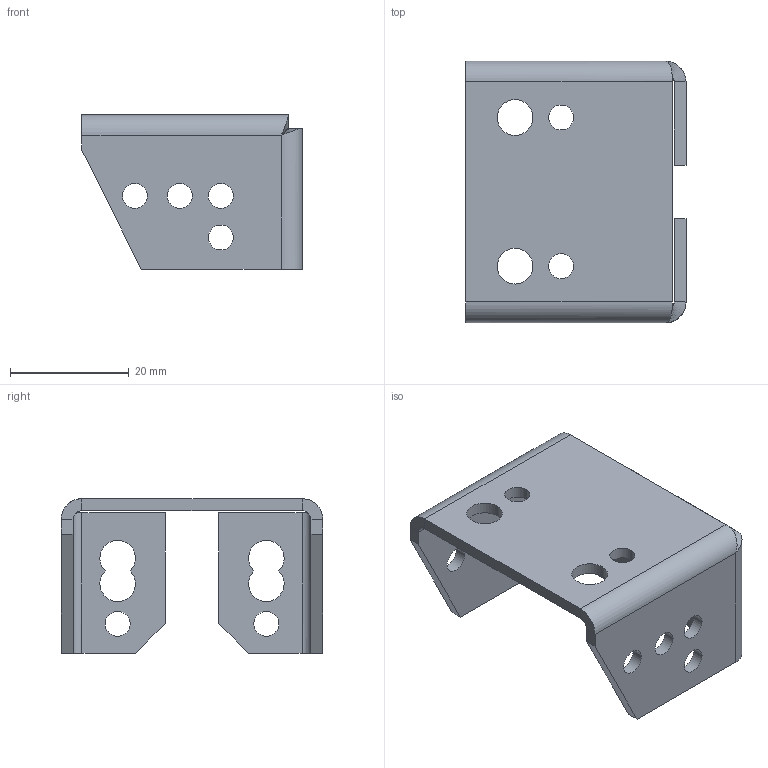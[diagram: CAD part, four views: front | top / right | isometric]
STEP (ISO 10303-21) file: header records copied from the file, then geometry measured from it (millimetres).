
FILE_DESCRIPTION (( 'STEP AP214' ), '1' );
FILE_NAME ('MG 06 L 01.002 Êðîíøòåéí ðåéêè ìîíòàæíîé v2.STEP', '2019-09-05T08:51:00', ( 'test' ), ( '' ), 'SwSTEP 2.0', 'SolidWorks 2012', '' );
FILE_SCHEMA (( 'AUTOMOTIVE_DESIGN' ));
Length unit declared in the file: millimetre
Products named in the file (1): MG 06 L 01.002 Êðîíøòåéí ðåéêè ìîíòàæíîé v2
Bounding box: 37 x 44 x 26 mm (x, y, z)
Volume: 6706 mm3; surface area: 7813.1 mm2
Topology: 1 solids, 1 shells, 82 faces, 208 edges, 128 vertices
Faces by surface type: cylinder 48, plane 30, bspline 4
Entity records: 2958 total; most frequent: CARTESIAN_POINT 855, DIRECTION 440, ORIENTED_EDGE 416, EDGE_CURVE 208, AXIS2_PLACEMENT_3D 167, VERTEX_POINT 128, EDGE_LOOP 114, LINE 106
